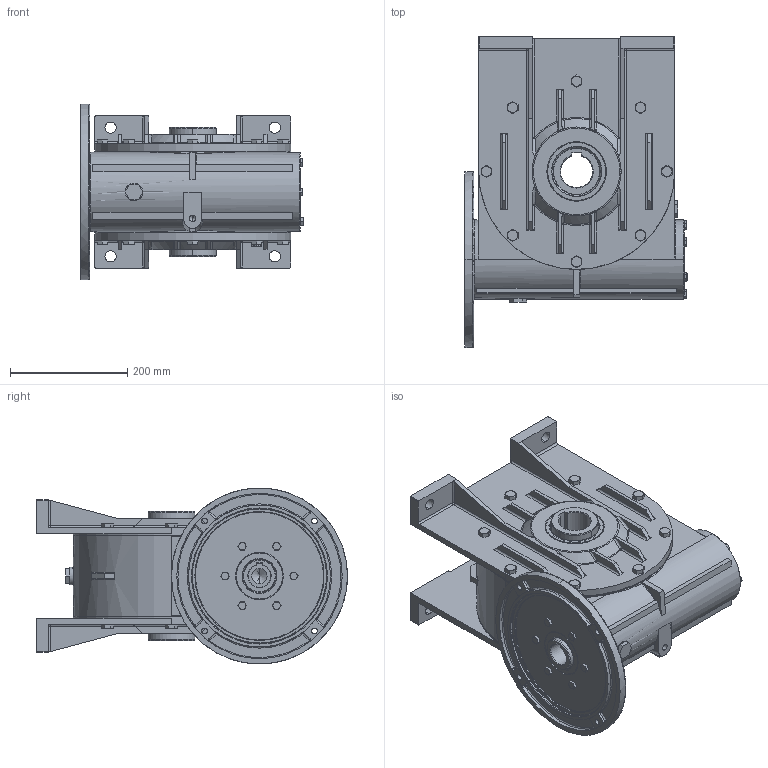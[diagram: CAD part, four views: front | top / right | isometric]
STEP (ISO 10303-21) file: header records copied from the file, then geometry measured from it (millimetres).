
FILE_DESCRIPTION (( 'STEP AP203' ), '1' );
FILE_NAME ('3F002499.STEP', '2012-07-24T06:33:19', ( 'Amministratore' ), ( 'SerteK sas' ), 'SwSTEP 2.0', 'SolidWorks 2009', '' );
FILE_SCHEMA (( 'CONFIG_CONTROL_DESIGN' ));
Products named in the file (1): 3F002499
Bounding box: 378.8 x 530 x 300 mm (x, y, z)
Surface area: 1604941.3 mm2 (no closed solid volume)
Topology: 0 solids, 58 shells, 1988 faces, 4778 edges, 2946 vertices
Faces by surface type: plane 672, cylinder 601, bspline 367, cone 348
Entity records: 84851 total; most frequent: CARTESIAN_POINT 40999, ORIENTED_EDGE 9376, DIRECTION 8738, EDGE_CURVE 4700, AXIS2_PLACEMENT_3D 3395, VERTEX_POINT 2946, EDGE_LOOP 2196, FACE_OUTER_BOUND 1988
